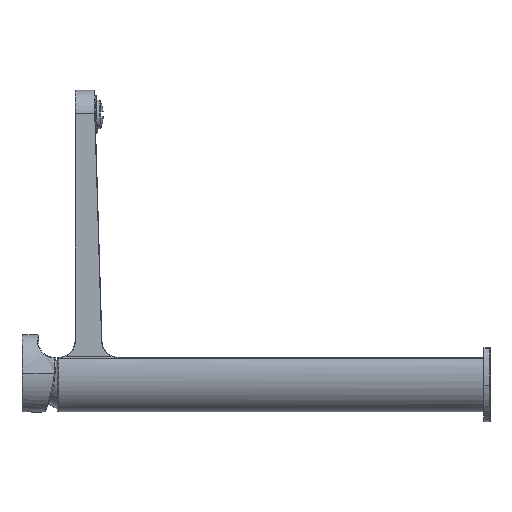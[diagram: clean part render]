
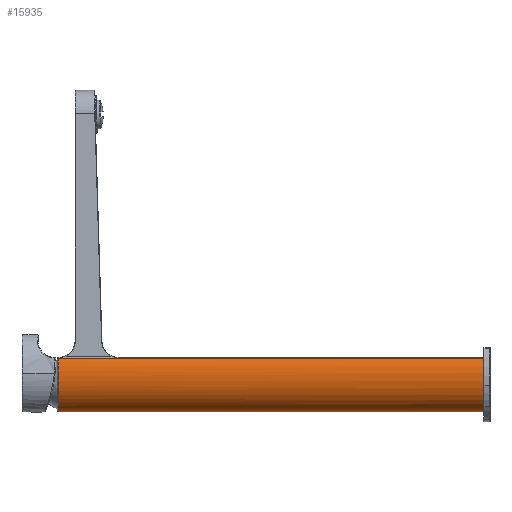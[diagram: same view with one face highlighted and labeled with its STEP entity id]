
A CAD part, left-side view. The second image highlights one B-rep face of the part: STEP entity #15935.
In plain terms, the highlighted face is a extrusion surface.
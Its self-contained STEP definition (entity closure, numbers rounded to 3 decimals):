
#472=CARTESIAN_POINT('',(17.514,264.5,15.104));
#473=CARTESIAN_POINT('',(17.527,264.5,15.064));
#474=CARTESIAN_POINT('',(18.02,264.5,13.575));
#475=CARTESIAN_POINT('',(18.755,264.5,10.512));
#476=CARTESIAN_POINT('',(19.122,264.5,5.8));
#477=CARTESIAN_POINT('',(18.755,264.5,1.088));
#478=CARTESIAN_POINT('',(17.667,264.5,-3.444));
#479=CARTESIAN_POINT('',(15.9,264.5,-7.62));
#480=CARTESIAN_POINT('',(13.522,264.5,-11.28));
#481=CARTESIAN_POINT('',(10.624,264.5,-14.284));
#482=CARTESIAN_POINT('',(7.318,264.5,-16.516));
#483=CARTESIAN_POINT('',(3.731,264.5,-17.891));
#484=CARTESIAN_POINT('',(0.,264.5,-18.355));
#485=CARTESIAN_POINT('',(-3.731,264.5,-17.891));
#486=CARTESIAN_POINT('',(-7.318,264.5,-16.516));
#487=CARTESIAN_POINT('',(-10.624,264.5,-14.284));
#488=CARTESIAN_POINT('',(-13.522,264.5,-11.28));
#489=CARTESIAN_POINT('',(-15.9,264.5,-7.62));
#490=CARTESIAN_POINT('',(-17.667,264.5,-3.444));
#491=CARTESIAN_POINT('',(-18.755,264.5,1.088));
#492=CARTESIAN_POINT('',(-19.122,264.5,5.8));
#493=CARTESIAN_POINT('',(-18.755,264.5,10.512));
#494=CARTESIAN_POINT('',(-18.02,264.5,13.575));
#495=CARTESIAN_POINT('',(-17.527,264.5,15.064));
#496=CARTESIAN_POINT('',(-17.514,264.5,15.104));
#498=DIRECTION('',(0.,-1.,0.));
#499=VECTOR('',#498,264.3);
#500=CARTESIAN_POINT('',(-17.514,264.5,15.104));
#501=LINE('',#500,#499);
#502=CARTESIAN_POINT('',(-17.514,0.2,15.104));
#503=CARTESIAN_POINT('',(-17.527,0.2,15.064));
#504=CARTESIAN_POINT('',(-18.02,0.2,13.575));
#505=CARTESIAN_POINT('',(-18.755,0.2,10.512));
#506=CARTESIAN_POINT('',(-19.122,0.2,5.8));
#507=CARTESIAN_POINT('',(-18.755,0.2,1.088));
#508=CARTESIAN_POINT('',(-17.667,0.2,-3.444));
#509=CARTESIAN_POINT('',(-15.9,0.2,-7.62));
#510=CARTESIAN_POINT('',(-13.522,0.2,-11.28));
#511=CARTESIAN_POINT('',(-10.624,0.2,-14.284));
#512=CARTESIAN_POINT('',(-7.318,0.2,-16.516));
#513=CARTESIAN_POINT('',(-3.731,0.2,-17.891));
#514=CARTESIAN_POINT('',(0.,0.2,-18.355));
#515=CARTESIAN_POINT('',(3.731,0.2,-17.891));
#516=CARTESIAN_POINT('',(7.318,0.2,-16.516));
#517=CARTESIAN_POINT('',(10.624,0.2,-14.284));
#518=CARTESIAN_POINT('',(13.522,0.2,-11.28));
#519=CARTESIAN_POINT('',(15.9,0.2,-7.62));
#520=CARTESIAN_POINT('',(17.667,0.2,-3.444));
#521=CARTESIAN_POINT('',(18.755,0.2,1.088));
#522=CARTESIAN_POINT('',(19.122,0.2,5.8));
#523=CARTESIAN_POINT('',(18.755,0.2,10.512));
#524=CARTESIAN_POINT('',(18.02,0.2,13.575));
#525=CARTESIAN_POINT('',(17.527,0.2,15.064));
#526=CARTESIAN_POINT('',(17.514,0.2,15.104));
#528=DIRECTION('',(0.,1.,0.));
#529=VECTOR('',#528,264.3);
#530=CARTESIAN_POINT('',(17.514,0.2,15.104));
#531=LINE('',#530,#529);
#13225=CARTESIAN_POINT('',(17.514,0.2,15.104));
#13227=VERTEX_POINT('',#13225);
#13235=CARTESIAN_POINT('',(-17.514,0.2,15.104));
#13236=VERTEX_POINT('',#13235);
#13248=CARTESIAN_POINT('',(17.514,264.5,15.104));
#13250=VERTEX_POINT('',#13248);
#13252=VERTEX_POINT('',#496);
#15920=CARTESIAN_POINT('',(0.,0.,5.8));
#15921=DIRECTION('',(0.,1.,0.));
#15922=DIRECTION('',(0.,0.,1.));
#15923=AXIS2_PLACEMENT_3D('',#15920,#15921,#15922);
#15925=DIRECTION('',(0.,1.,0.));
#15926=VECTOR('',#15925,1.);
#15927=SURFACE_OF_LINEAR_EXTRUSION('',#15924,#15926);
#15928=ORIENTED_EDGE('',*,*,#15689,.T.);
#15929=ORIENTED_EDGE('',*,*,#15727,.T.);
#15931=ORIENTED_EDGE('',*,*,#15930,.T.);
#15932=ORIENTED_EDGE('',*,*,#15905,.T.);
#15933=EDGE_LOOP('',(#15928,#15929,#15931,#15932));
#15934=FACE_OUTER_BOUND('',#15933,.F.);
#15935=ADVANCED_FACE('',(#15934),#15927,.T.);
#497=B_SPLINE_CURVE_WITH_KNOTS('',3,(#472,#473,#474,#475,#476,#477,#478,#479,
#480,#481,#482,#483,#484,#485,#486,#487,#488,#489,#490,#491,#492,#493,#494,#495,
#496),.UNSPECIFIED.,.F.,.F.,(4,1,1,1,1,1,1,1,1,1,1,1,1,1,1,1,1,1,1,1,1,1,4),(
0.,0.001,0.051,0.101,0.151,
0.201,0.251,0.301,0.35,
0.4,0.45,0.5,0.55,0.6,
0.65,0.699,0.749,0.799,
0.849,0.899,0.949,0.999,1.),
.UNSPECIFIED.);
#527=B_SPLINE_CURVE_WITH_KNOTS('',3,(#502,#503,#504,#505,#506,#507,#508,#509,
#510,#511,#512,#513,#514,#515,#516,#517,#518,#519,#520,#521,#522,#523,#524,#525,
#526),.UNSPECIFIED.,.F.,.F.,(4,1,1,1,1,1,1,1,1,1,1,1,1,1,1,1,1,1,1,1,1,1,4),(
0.,0.001,0.051,0.101,0.151,
0.201,0.251,0.301,0.35,
0.4,0.45,0.5,0.55,
0.6,0.65,0.699,0.749,
0.799,0.849,0.899,0.949,
0.999,1.),.UNSPECIFIED.);
#15689=EDGE_CURVE('',#13250,#13252,#497,.T.);
#15727=EDGE_CURVE('',#13252,#13236,#501,.T.);
#15905=EDGE_CURVE('',#13227,#13250,#531,.T.);
#15924=ELLIPSE('',#15923,24.,19.);
#15930=EDGE_CURVE('',#13236,#13227,#527,.T.);
